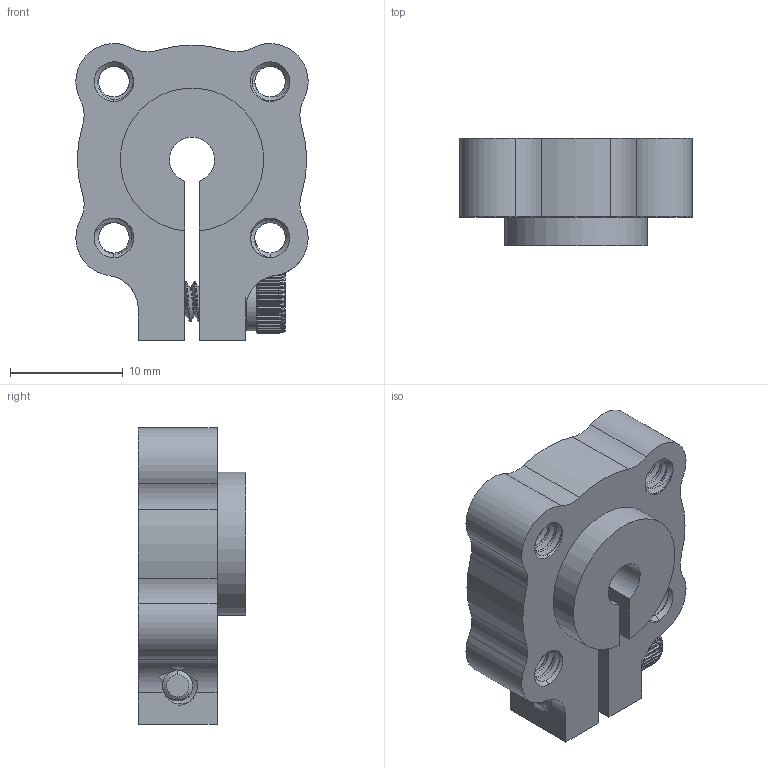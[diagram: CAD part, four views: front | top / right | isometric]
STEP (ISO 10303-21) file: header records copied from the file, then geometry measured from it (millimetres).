
FILE_DESCRIPTION (( 'STEP AP203' ), '1' );
FILE_NAME ('545608 assembly.STEP', '2017-06-30T21:41:54', ( '' ), ( '' ), 'SwSTEP 2.0', 'SolidWorks 2016', '' );
FILE_SCHEMA (( 'CONFIG_CONTROL_DESIGN' ));
Length unit declared in the file: inch
Products named in the file (3): 545608; 632110_90128A121; 545608 assembly
Assembly tree (2 placements, depth 2):
  545608 assembly
    545608
    632110_90128A121
Bounding box: 20.57 x 9.53 x 26.29 mm (x, y, z)
Volume: 3074.8 mm3; surface area: 2598.2 mm2
Topology: 2 solids, 2 shells, 1119 faces, 2782 edges, 1669 vertices
Faces by surface type: cylinder 467, bspline 457, plane 139, cone 37, torus 19
Entity records: 54361 total; most frequent: CARTESIAN_POINT 32029, ORIENTED_EDGE 5564, DIRECTION 3406, EDGE_CURVE 2782, VERTEX_POINT 1669, AXIS2_PLACEMENT_3D 1388, EDGE_LOOP 1133, FACE_OUTER_BOUND 1119
